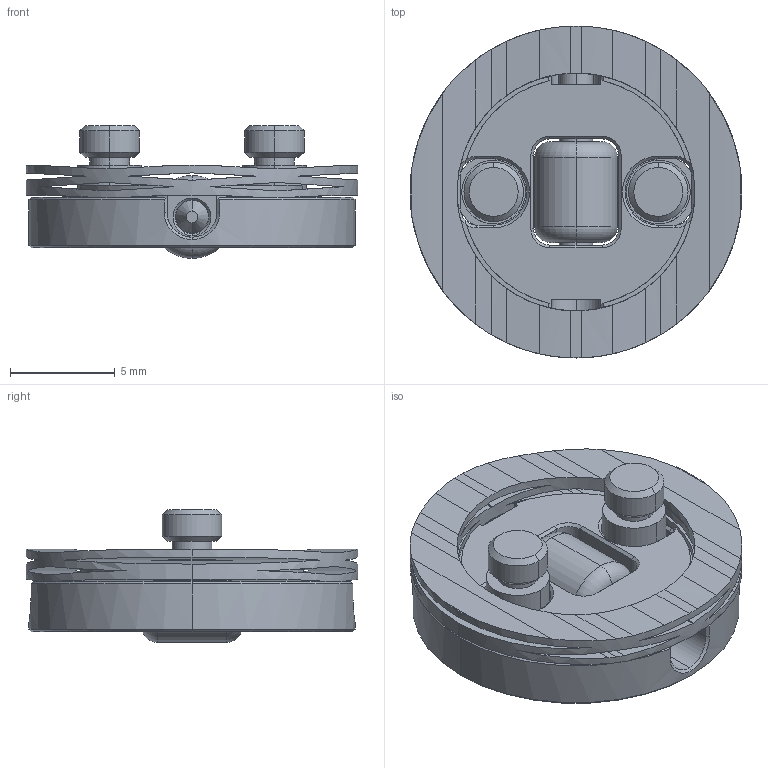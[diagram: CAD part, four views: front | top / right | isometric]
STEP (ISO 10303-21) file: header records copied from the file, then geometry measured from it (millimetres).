
FILE_DESCRIPTION (( 'STEP AP203' ), '1' );
FILE_NAME ('SRT-02.step', '2015-04-15T20:38:40', ( '' ), ( '' ), 'SwSTEP 2.0', 'SolidWorks 2013', '' );
FILE_SCHEMA (( 'CONFIG_CONTROL_DESIGN' ));
Length unit declared in the file: inch
Products named in the file (6): SRT-02 BODY; SRT-02 ROLLER; SRT-02_SHSB; SRT-02_AXLE; SRT-02; SRT-02 WAVESPRING
Assembly tree (6 placements, depth 2):
  SRT-02
    SRT-02 BODY
    SRT-02 WAVESPRING
    SRT-02_AXLE
    SRT-02 ROLLER
    SRT-02_SHSB  x2
Bounding box: 15.88 x 15.88 x 6.35 mm (x, y, z)
Volume: 578.9 mm3; surface area: 1488.2 mm2
Topology: 6 solids, 6 shells, 289 faces, 750 edges, 472 vertices
Faces by surface type: plane 115, cylinder 103, cone 61, torus 6, bspline 4
Entity records: 8964 total; most frequent: CARTESIAN_POINT 2221, ORIENTED_EDGE 1372, DIRECTION 1170, EDGE_CURVE 686, AXIS2_PLACEMENT_3D 433, VERTEX_POINT 432, LINE 304, VECTOR 304
